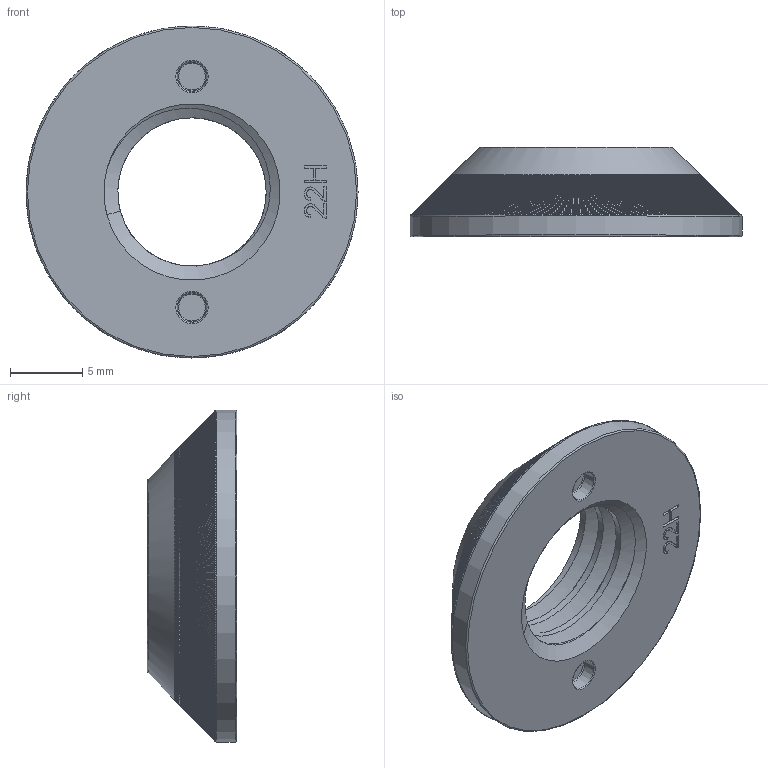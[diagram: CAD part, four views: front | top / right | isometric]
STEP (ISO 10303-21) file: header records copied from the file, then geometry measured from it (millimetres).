
FILE_DESCRIPTION(/* description */ (''),/* implementation_level */ '2;1');
FILE_NAME(/* name */ 'HEWI_CONU_M12_PreFinal_1.step',/* time_stamp */ '2024-01-23T23:19:20+01:00',/* author */ (''),/* organization */ (''),/* preprocessor_version */ 'ST-DEVELOPER v20',/* originating_system */ 'Autodesk Translation Framework v12.14.0.127',/* authorisation */ '');
FILE_SCHEMA (('AUTOMOTIVE_DESIGN { 1 0 10303 214 3 1 1 }'));
Length unit declared in the file: millimetre
Products named in the file (1): HEWI_CONU_M12
Bounding box: 23 x 6.2 x 23 mm (x, y, z)
Volume: 1246.7 mm3; surface area: 1246.1 mm2
Topology: 1 solids, 1 shells, 2935 faces, 9912 edges, 5845 vertices
Faces by surface type: bspline 2316, cylinder 580, plane 27, torus 7, cone 5
Full cylindrical faces by diameter (mm): 10.274 x2, 12.226 x3, 23 x1
Entity records: 217768 total; most frequent: CARTESIAN_POINT 157757, ORIENTED_EDGE 17546, EDGE_CURVE 8773, DIRECTION 7097, VERTEX_POINT 5845, B_SPLINE_CURVE_WITH_KNOTS 4653, AXIS2_PLACEMENT_3D 3495, EDGE_LOOP 2942
